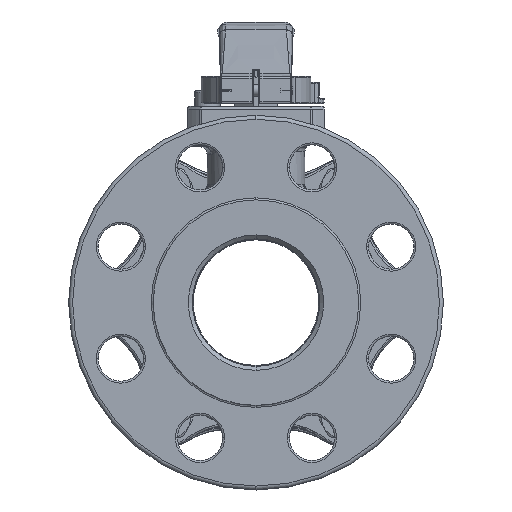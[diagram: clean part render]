
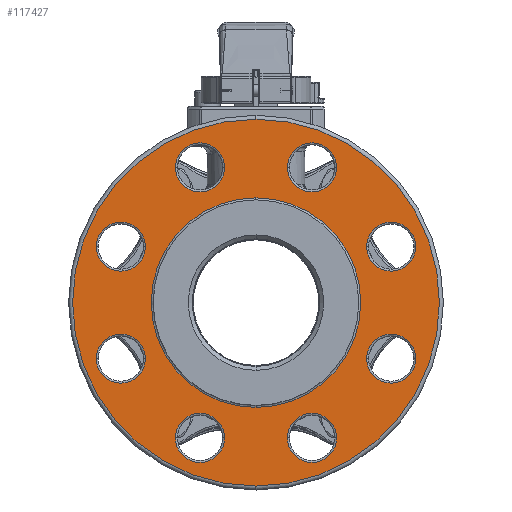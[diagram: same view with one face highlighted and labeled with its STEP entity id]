
A CAD part, left-side view. The second image highlights one B-rep face of the part: STEP entity #117427.
In plain terms, the highlighted planar face has unit normal (-1, 0, 0).
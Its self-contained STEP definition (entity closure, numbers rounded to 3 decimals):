
#35395=CARTESIAN_POINT('',(-109.4,0.,0.));
#35396=DIRECTION('',(1.,0.,0.));
#35397=DIRECTION('',(0.,0.,1.));
#35398=AXIS2_PLACEMENT_3D('',#35395,#35396,#35397);
#35410=CARTESIAN_POINT('',(-109.4,0.,0.));
#35411=DIRECTION('',(1.,0.,0.));
#35412=DIRECTION('',(0.,0.,-1.));
#35413=AXIS2_PLACEMENT_3D('',#35410,#35411,#35412);
#35428=CARTESIAN_POINT('',(-109.4,0.,0.));
#35429=DIRECTION('',(-1.,0.,0.));
#35430=DIRECTION('',(0.,0.,1.));
#35431=AXIS2_PLACEMENT_3D('',#35428,#35429,#35430);
#35443=CARTESIAN_POINT('',(-109.4,0.,0.));
#35444=DIRECTION('',(-1.,0.,0.));
#35445=DIRECTION('',(0.,0.,-1.));
#35446=AXIS2_PLACEMENT_3D('',#35443,#35444,#35445);
#35486=CARTESIAN_POINT('',(-109.4,-28.548,68.921));
#35487=DIRECTION('',(1.,0.,0.));
#35488=DIRECTION('',(0.,-1.,0.));
#35489=AXIS2_PLACEMENT_3D('',#35486,#35487,#35488);
#35501=CARTESIAN_POINT('',(-109.4,-28.548,68.921));
#35502=DIRECTION('',(1.,0.,0.));
#35503=DIRECTION('',(0.,1.,0.));
#35504=AXIS2_PLACEMENT_3D('',#35501,#35502,#35503);
#35554=CARTESIAN_POINT('',(-109.4,-28.548,-68.921));
#35555=DIRECTION('',(1.,0.,0.));
#35556=DIRECTION('',(0.,-1.,0.));
#35557=AXIS2_PLACEMENT_3D('',#35554,#35555,#35556);
#35569=CARTESIAN_POINT('',(-109.4,-28.548,-68.921));
#35570=DIRECTION('',(1.,0.,0.));
#35571=DIRECTION('',(0.,1.,0.));
#35572=AXIS2_PLACEMENT_3D('',#35569,#35570,#35571);
#35622=CARTESIAN_POINT('',(-109.4,-68.921,-28.548));
#35623=DIRECTION('',(1.,0.,0.));
#35624=DIRECTION('',(0.,1.,0.));
#35625=AXIS2_PLACEMENT_3D('',#35622,#35623,#35624);
#35637=CARTESIAN_POINT('',(-109.4,-68.921,-28.548));
#35638=DIRECTION('',(1.,0.,0.));
#35639=DIRECTION('',(0.,-1.,0.));
#35640=AXIS2_PLACEMENT_3D('',#35637,#35638,#35639);
#35690=CARTESIAN_POINT('',(-109.4,-68.921,28.548));
#35691=DIRECTION('',(1.,0.,0.));
#35692=DIRECTION('',(0.,1.,0.));
#35693=AXIS2_PLACEMENT_3D('',#35690,#35691,#35692);
#35705=CARTESIAN_POINT('',(-109.4,-68.921,28.548));
#35706=DIRECTION('',(1.,0.,0.));
#35707=DIRECTION('',(0.,-1.,0.));
#35708=AXIS2_PLACEMENT_3D('',#35705,#35706,#35707);
#35758=CARTESIAN_POINT('',(-109.4,28.548,68.921));
#35759=DIRECTION('',(1.,0.,0.));
#35760=DIRECTION('',(0.,-1.,0.));
#35761=AXIS2_PLACEMENT_3D('',#35758,#35759,#35760);
#35773=CARTESIAN_POINT('',(-109.4,28.548,68.921));
#35774=DIRECTION('',(1.,0.,0.));
#35775=DIRECTION('',(0.,1.,0.));
#35776=AXIS2_PLACEMENT_3D('',#35773,#35774,#35775);
#35826=CARTESIAN_POINT('',(-109.4,68.921,28.548));
#35827=DIRECTION('',(1.,0.,0.));
#35828=DIRECTION('',(0.,-1.,0.));
#35829=AXIS2_PLACEMENT_3D('',#35826,#35827,#35828);
#35841=CARTESIAN_POINT('',(-109.4,68.921,28.548));
#35842=DIRECTION('',(1.,0.,0.));
#35843=DIRECTION('',(0.,1.,0.));
#35844=AXIS2_PLACEMENT_3D('',#35841,#35842,#35843);
#35894=CARTESIAN_POINT('',(-109.4,68.921,-28.548));
#35895=DIRECTION('',(1.,0.,0.));
#35896=DIRECTION('',(0.,-1.,0.));
#35897=AXIS2_PLACEMENT_3D('',#35894,#35895,#35896);
#35909=CARTESIAN_POINT('',(-109.4,68.921,-28.548));
#35910=DIRECTION('',(1.,0.,0.));
#35911=DIRECTION('',(0.,1.,0.));
#35912=AXIS2_PLACEMENT_3D('',#35909,#35910,#35911);
#35962=CARTESIAN_POINT('',(-109.4,28.548,-68.921));
#35963=DIRECTION('',(1.,0.,0.));
#35964=DIRECTION('',(0.,-1.,0.));
#35965=AXIS2_PLACEMENT_3D('',#35962,#35963,#35964);
#35977=CARTESIAN_POINT('',(-109.4,28.548,-68.921));
#35978=DIRECTION('',(1.,0.,0.));
#35979=DIRECTION('',(0.,1.,0.));
#35980=AXIS2_PLACEMENT_3D('',#35977,#35978,#35979);
#51391=CARTESIAN_POINT('',(-109.4,0.,-93.5));
#51392=CARTESIAN_POINT('',(-109.4,0.,93.5));
#51393=VERTEX_POINT('',#51391);
#51394=VERTEX_POINT('',#51392);
#51403=CARTESIAN_POINT('',(-109.4,0.,53.4));
#51404=CARTESIAN_POINT('',(-109.4,0.,-53.4));
#51405=VERTEX_POINT('',#51403);
#51406=VERTEX_POINT('',#51404);
#51411=CARTESIAN_POINT('',(-109.4,-41.048,68.921));
#51412=CARTESIAN_POINT('',(-109.4,-16.048,68.921));
#51413=VERTEX_POINT('',#51411);
#51414=VERTEX_POINT('',#51412);
#51419=CARTESIAN_POINT('',(-109.4,-41.048,-68.921));
#51420=CARTESIAN_POINT('',(-109.4,-16.048,-68.921));
#51421=VERTEX_POINT('',#51419);
#51422=VERTEX_POINT('',#51420);
#51427=CARTESIAN_POINT('',(-109.4,-56.421,-28.548));
#51428=CARTESIAN_POINT('',(-109.4,-81.421,-28.548));
#51429=VERTEX_POINT('',#51427);
#51430=VERTEX_POINT('',#51428);
#51435=CARTESIAN_POINT('',(-109.4,-56.421,28.548));
#51436=CARTESIAN_POINT('',(-109.4,-81.421,28.548));
#51437=VERTEX_POINT('',#51435);
#51438=VERTEX_POINT('',#51436);
#52272=CARTESIAN_POINT('',(-109.4,16.048,68.921));
#52273=CARTESIAN_POINT('',(-109.4,41.048,68.921));
#52274=VERTEX_POINT('',#52272);
#52275=VERTEX_POINT('',#52273);
#52280=CARTESIAN_POINT('',(-109.4,56.421,28.548));
#52281=CARTESIAN_POINT('',(-109.4,81.421,28.548));
#52282=VERTEX_POINT('',#52280);
#52283=VERTEX_POINT('',#52281);
#52288=CARTESIAN_POINT('',(-109.4,56.421,-28.548));
#52289=CARTESIAN_POINT('',(-109.4,81.421,-28.548));
#52290=VERTEX_POINT('',#52288);
#52291=VERTEX_POINT('',#52289);
#52296=CARTESIAN_POINT('',(-109.4,16.048,-68.921));
#52297=CARTESIAN_POINT('',(-109.4,41.048,-68.921));
#52298=VERTEX_POINT('',#52296);
#52299=VERTEX_POINT('',#52297);
#117364=CARTESIAN_POINT('',(-109.4,0.,0.));
#117365=DIRECTION('',(-1.,0.,0.));
#117366=DIRECTION('',(0.,0.,1.));
#117367=AXIS2_PLACEMENT_3D('',#117364,#117365,#117366);
#117368=PLANE('',#117367);
#117369=ORIENTED_EDGE('',*,*,#117346,.T.);
#117370=ORIENTED_EDGE('',*,*,#117331,.T.);
#117371=EDGE_LOOP('',(#117369,#117370));
#117372=FACE_OUTER_BOUND('',#117371,.F.);
#117374=ORIENTED_EDGE('',*,*,#117373,.T.);
#117376=ORIENTED_EDGE('',*,*,#117375,.T.);
#117377=EDGE_LOOP('',(#117374,#117376));
#117378=FACE_BOUND('',#117377,.F.);
#117380=ORIENTED_EDGE('',*,*,#117379,.F.);
#117382=ORIENTED_EDGE('',*,*,#117381,.F.);
#117383=EDGE_LOOP('',(#117380,#117382));
#117384=FACE_BOUND('',#117383,.F.);
#117386=ORIENTED_EDGE('',*,*,#117385,.F.);
#117388=ORIENTED_EDGE('',*,*,#117387,.F.);
#117389=EDGE_LOOP('',(#117386,#117388));
#117390=FACE_BOUND('',#117389,.F.);
#117392=ORIENTED_EDGE('',*,*,#117391,.F.);
#117394=ORIENTED_EDGE('',*,*,#117393,.F.);
#117395=EDGE_LOOP('',(#117392,#117394));
#117396=FACE_BOUND('',#117395,.F.);
#117398=ORIENTED_EDGE('',*,*,#117397,.F.);
#117400=ORIENTED_EDGE('',*,*,#117399,.F.);
#117401=EDGE_LOOP('',(#117398,#117400));
#117402=FACE_BOUND('',#117401,.F.);
#117404=ORIENTED_EDGE('',*,*,#117403,.F.);
#117406=ORIENTED_EDGE('',*,*,#117405,.F.);
#117407=EDGE_LOOP('',(#117404,#117406));
#117408=FACE_BOUND('',#117407,.F.);
#117410=ORIENTED_EDGE('',*,*,#117409,.F.);
#117412=ORIENTED_EDGE('',*,*,#117411,.F.);
#117413=EDGE_LOOP('',(#117410,#117412));
#117414=FACE_BOUND('',#117413,.F.);
#117416=ORIENTED_EDGE('',*,*,#117415,.F.);
#117418=ORIENTED_EDGE('',*,*,#117417,.F.);
#117419=EDGE_LOOP('',(#117416,#117418));
#117420=FACE_BOUND('',#117419,.F.);
#117422=ORIENTED_EDGE('',*,*,#117421,.F.);
#117424=ORIENTED_EDGE('',*,*,#117423,.F.);
#117425=EDGE_LOOP('',(#117422,#117424));
#117426=FACE_BOUND('',#117425,.F.);
#117427=ADVANCED_FACE('',(#117372,#117378,#117384,#117390,#117396,#117402,
#117408,#117414,#117420,#117426),#117368,.T.);
#35399=CIRCLE('',#35398,93.5);
#35414=CIRCLE('',#35413,93.5);
#35432=CIRCLE('',#35431,53.4);
#35447=CIRCLE('',#35446,53.4);
#35490=CIRCLE('',#35489,12.5);
#35505=CIRCLE('',#35504,12.5);
#35558=CIRCLE('',#35557,12.5);
#35573=CIRCLE('',#35572,12.5);
#35626=CIRCLE('',#35625,12.5);
#35641=CIRCLE('',#35640,12.5);
#35694=CIRCLE('',#35693,12.5);
#35709=CIRCLE('',#35708,12.5);
#35762=CIRCLE('',#35761,12.5);
#35777=CIRCLE('',#35776,12.5);
#35830=CIRCLE('',#35829,12.5);
#35845=CIRCLE('',#35844,12.5);
#35898=CIRCLE('',#35897,12.5);
#35913=CIRCLE('',#35912,12.5);
#35966=CIRCLE('',#35965,12.5);
#35981=CIRCLE('',#35980,12.5);
#117331=EDGE_CURVE('',#51394,#51393,#35399,.T.);
#117346=EDGE_CURVE('',#51393,#51394,#35414,.T.);
#117373=EDGE_CURVE('',#51405,#51406,#35432,.T.);
#117375=EDGE_CURVE('',#51406,#51405,#35447,.T.);
#117379=EDGE_CURVE('',#51413,#51414,#35490,.T.);
#117381=EDGE_CURVE('',#51414,#51413,#35505,.T.);
#117385=EDGE_CURVE('',#51421,#51422,#35558,.T.);
#117387=EDGE_CURVE('',#51422,#51421,#35573,.T.);
#117391=EDGE_CURVE('',#51429,#51430,#35626,.T.);
#117393=EDGE_CURVE('',#51430,#51429,#35641,.T.);
#117397=EDGE_CURVE('',#51437,#51438,#35694,.T.);
#117399=EDGE_CURVE('',#51438,#51437,#35709,.T.);
#117403=EDGE_CURVE('',#52274,#52275,#35762,.T.);
#117405=EDGE_CURVE('',#52275,#52274,#35777,.T.);
#117409=EDGE_CURVE('',#52282,#52283,#35830,.T.);
#117411=EDGE_CURVE('',#52283,#52282,#35845,.T.);
#117415=EDGE_CURVE('',#52290,#52291,#35898,.T.);
#117417=EDGE_CURVE('',#52291,#52290,#35913,.T.);
#117421=EDGE_CURVE('',#52298,#52299,#35966,.T.);
#117423=EDGE_CURVE('',#52299,#52298,#35981,.T.);
